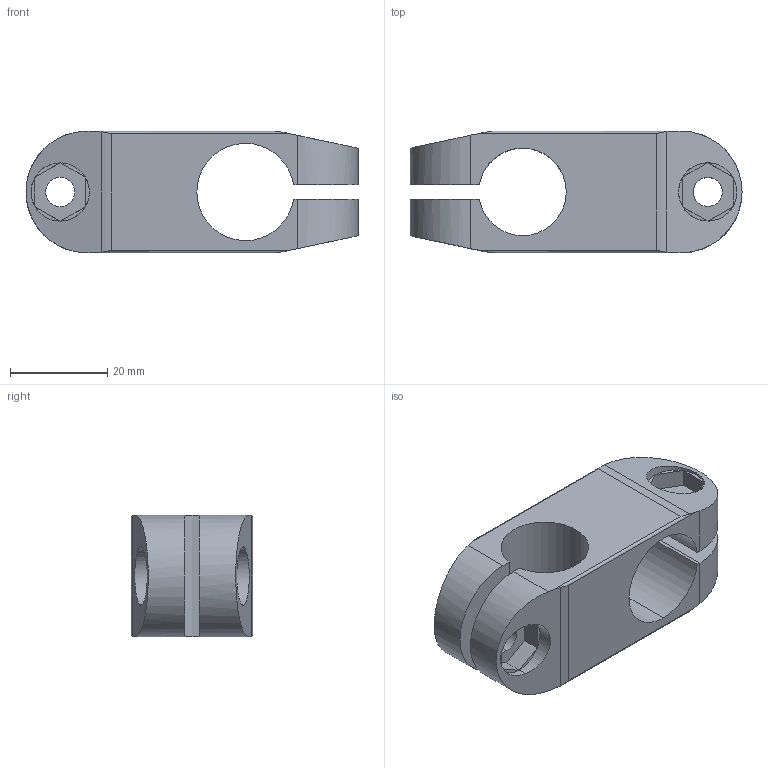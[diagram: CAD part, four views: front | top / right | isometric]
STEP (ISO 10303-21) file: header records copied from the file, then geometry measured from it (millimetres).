
FILE_DESCRIPTION (( 'STEP AP214' ), '1' );
FILE_NAME ('FGRB 18X20.step', '2017-04-05T07:37:39', ( '' ), ( '' ), 'SwSTEP 2.0', 'SolidWorks 2015', '' );
FILE_SCHEMA (( 'AUTOMOTIVE_DESIGN' ));
Length unit declared in the file: millimetre
Products named in the file (1): FGRB 18X20
Bounding box: 68.3 x 25 x 25 mm (x, y, z)
Volume: 18721.4 mm3; surface area: 10252.8 mm2
Topology: 1 solids, 1 shells, 126 faces, 308 edges, 188 vertices
Faces by surface type: plane 92, cylinder 34
Entity records: 3700 total; most frequent: CARTESIAN_POINT 713, DIRECTION 618, ORIENTED_EDGE 616, EDGE_CURVE 308, AXIS2_PLACEMENT_3D 213, VECTOR 192, LINE 192, VERTEX_POINT 188
